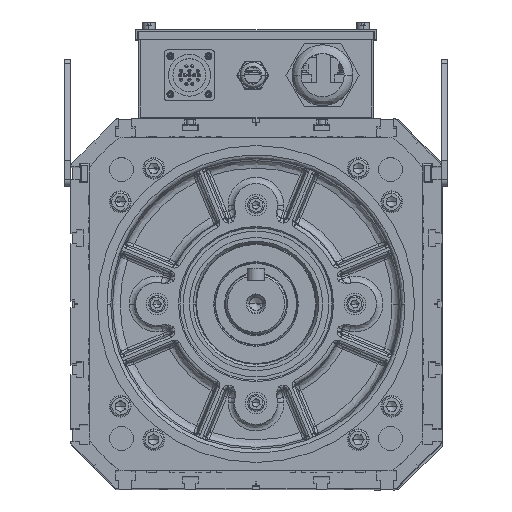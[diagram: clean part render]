
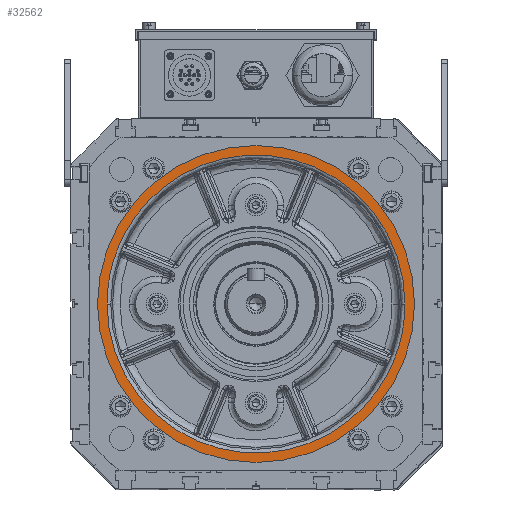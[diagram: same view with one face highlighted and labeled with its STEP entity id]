
A CAD part, top view. The second image highlights one B-rep face of the part: STEP entity #32562.
In plain terms, the highlighted planar face has unit normal (0, 0, 1) as drawn and (0, 0, -1) by its records, which use the part's own axes.
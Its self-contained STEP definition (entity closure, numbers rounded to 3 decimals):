
#1105 = DIRECTION ( 'NONE',  ( 0., 0., 1. ) ) ;
#4823 = CARTESIAN_POINT ( 'NONE',  ( 175.72, -229.179, 132.5 ) ) ;
#6021 = CARTESIAN_POINT ( 'NONE',  ( 175.72, 5.856, 132.5 ) ) ;
#6359 = CARTESIAN_POINT ( 'NONE',  ( 175.72, 5.856, 132.5 ) ) ;
#8035 = CARTESIAN_POINT ( 'NONE',  ( 175.72, 240.89, 132.5 ) ) ;
#23614 = FACE_OUTER_BOUND ( 'NONE', #125502, .T. ) ;
#24124 = CARTESIAN_POINT ( 'NONE',  ( -59.315, 5.856, 132.5 ) ) ;
#26361 = DIRECTION ( 'NONE',  ( 0., 0., 1. ) ) ;
#29670 = CARTESIAN_POINT ( 'NONE',  ( -59.315, 5.856, 132.5 ) ) ;
#30261 = VERTEX_POINT ( 'NONE', #65779 ) ;
#32562 = ADVANCED_FACE ( 'NONE', ( #23614, #32996 ), #96798, .F. ) ;
#32996 = FACE_BOUND ( 'NONE', #106358, .T. ) ;
#35009 =( BOUNDED_CURVE ( )  B_SPLINE_CURVE ( 3, ( #113168, #148915, #8035, #6021 ),
 .UNSPECIFIED., .F., .F. ) 
 B_SPLINE_CURVE_WITH_KNOTS ( ( 4, 4 ),
 ( 0., 1. ),
 .UNSPECIFIED. ) 
 CURVE ( )  GEOMETRIC_REPRESENTATION_ITEM ( )  RATIONAL_B_SPLINE_CURVE ( ( 1., 0.333, 0.333, 1. ) ) 
 REPRESENTATION_ITEM ( '' )  );
#38322 = EDGE_CURVE ( 'NONE', #45771, #30261, #35009, .T. ) ;
#38646 = EDGE_CURVE ( 'NONE', #30261, #45771, #46385, .T. ) ;
#41933 = CARTESIAN_POINT ( 'NONE',  ( 183.202, 5.856, 132.5 ) ) ;
#45613 = ORIENTED_EDGE ( 'NONE', *, *, #143573, .F. ) ;
#45771 = VERTEX_POINT ( 'NONE', #24124 ) ;
#46385 =( BOUNDED_CURVE ( )  B_SPLINE_CURVE ( 3, ( #6359, #4823, #146197, #29670 ),
 .UNSPECIFIED., .F., .F. ) 
 B_SPLINE_CURVE_WITH_KNOTS ( ( 4, 4 ),
 ( 0., 1. ),
 .UNSPECIFIED. ) 
 CURVE ( )  GEOMETRIC_REPRESENTATION_ITEM ( )  RATIONAL_B_SPLINE_CURVE ( ( 1., 0.333, 0.333, 1. ) ) 
 REPRESENTATION_ITEM ( '' )  );
#48359 = ORIENTED_EDGE ( 'NONE', *, *, #38322, .F. ) ;
#61579 = CARTESIAN_POINT ( 'NONE',  ( 58.202, 130.856, 132.5 ) ) ;
#64711 = DIRECTION ( 'NONE',  ( -1., 0., 0. ) ) ;
#65779 = CARTESIAN_POINT ( 'NONE',  ( 175.72, 5.856, 132.5 ) ) ;
#66248 = CARTESIAN_POINT ( 'NONE',  ( 58.202, 5.856, 132.5 ) ) ;
#70085 = CARTESIAN_POINT ( 'NONE',  ( 58.202, 5.856, 132.5 ) ) ;
#85068 = VERTEX_POINT ( 'NONE', #41933 ) ;
#86763 = AXIS2_PLACEMENT_3D ( 'NONE', #61579, #26361, #144934 ) ;
#88852 = CIRCLE ( 'NONE', #120124, 125. ) ;
#91548 = VERTEX_POINT ( 'NONE', #92304 ) ;
#92304 = CARTESIAN_POINT ( 'NONE',  ( -66.798, 5.856, 132.5 ) ) ;
#96798 = PLANE ( 'NONE',  #86763 ) ;
#106233 = DIRECTION ( 'NONE',  ( -1., 0., 0. ) ) ;
#106358 = EDGE_LOOP ( 'NONE', ( #126905, #48359 ) ) ;
#106531 = CIRCLE ( 'NONE', #114932, 125. ) ;
#110593 = ORIENTED_EDGE ( 'NONE', *, *, #149374, .F. ) ;
#111796 = DIRECTION ( 'NONE',  ( 0., 0., 1. ) ) ;
#113168 = CARTESIAN_POINT ( 'NONE',  ( -59.315, 5.856, 132.5 ) ) ;
#114932 = AXIS2_PLACEMENT_3D ( 'NONE', #66248, #111796, #64711 ) ;
#120124 = AXIS2_PLACEMENT_3D ( 'NONE', #70085, #1105, #106233 ) ;
#125502 = EDGE_LOOP ( 'NONE', ( #110593, #45613 ) ) ;
#126905 = ORIENTED_EDGE ( 'NONE', *, *, #38646, .F. ) ;
#143573 = EDGE_CURVE ( 'NONE', #85068, #91548, #88852, .T. ) ;
#144934 = DIRECTION ( 'NONE',  ( 1., 0., 0. ) ) ;
#146197 = CARTESIAN_POINT ( 'NONE',  ( -59.315, -229.179, 132.5 ) ) ;
#148915 = CARTESIAN_POINT ( 'NONE',  ( -59.315, 240.89, 132.5 ) ) ;
#149374 = EDGE_CURVE ( 'NONE', #91548, #85068, #106531, .T. ) ;
